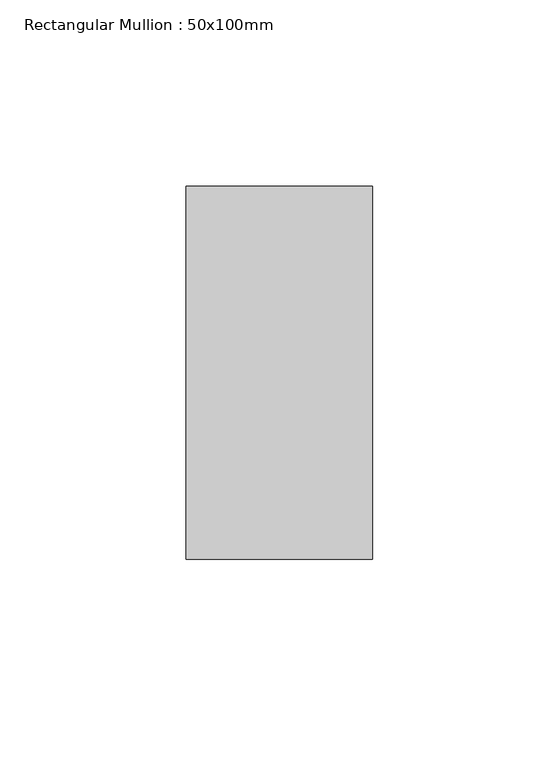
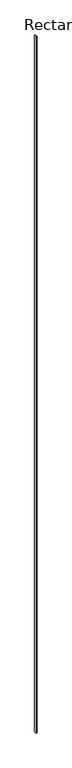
"""IFC4 building model written with IfcOpenShell, lengths in millimetres: member geometry, Rectangular Mullion : 50x100mm."""

import ifcopenshell
import ifcopenshell.guid

model = None  # the IFC model being written
_history = None  # IfcOwnerHistory: only IFC2X3 demands one
_inside = {}  # id of a spatial element -> (the spatial element, [elements in it])
_under = {}  # id of a project, library or spatial element -> (it, [spatial elements below it])
_declared = {}  # id of a project -> (the project, [libraries it declares])
_typed = {}  # id of a type object -> (the type object, [elements of that type])
_made_of = {}  # id of a material, layer set ... -> (it, [elements and type objects made of it])


def new_model(schema):
    """Start an empty IFC model of exactly this schema.

    Asked for "IFC4X3", IfcOpenShell would pick the latest addendum, in which some entities
    have other attributes; the version numbers below select the first issue.
    IFC2X3 requires an IfcOwnerHistory on every rooted entity: one is made here for all.
    """
    global model, _history
    if schema == "IFC4X3":
        model = ifcopenshell.file(schema_version=(4, 3, 0, 0))
    else:
        model = ifcopenshell.file(schema=schema)
    _inside.clear()
    _under.clear()
    _declared.clear()
    _typed.clear()
    _made_of.clear()
    _history = None
    if model.schema == "IFC2X3":
        org = make("IfcOrganization", Name="unknown")
        user = make(
            "IfcPersonAndOrganization",
            ThePerson=make("IfcPerson", FamilyName="unknown"),
            TheOrganization=org,
        )
        app = make(
            "IfcApplication",
            ApplicationDeveloper=org,
            Version="unknown",
            ApplicationFullName="unknown",
            ApplicationIdentifier="unknown",
        )
        _history = make(
            "IfcOwnerHistory",
            OwningUser=user,
            OwningApplication=app,
            ChangeAction="ADDED",
            CreationDate=0,
        )
    return model


def make(cls, **values):
    """One entity of the class cls with the attributes given. An attribute that is None is left unset."""
    return model.create_entity(
        cls, **{name: value for name, value in values.items() if value is not None}
    )


def rooted(cls, **values):
    """An entity with a GlobalId (a new one), such as an element, a storey or a relation."""
    return make(cls, GlobalId=ifcopenshell.guid.new(), OwnerHistory=_history, **values)


def si_unit(unit_type, name, prefix=None):
    """IfcSIUnit, for example si_unit("LENGTHUNIT", "METRE", prefix="MILLI")."""
    return make("IfcSIUnit", UnitType=unit_type, Prefix=prefix, Name=name)


def assignment(units):
    """IfcUnitAssignment: the units of a project."""
    return None if units is None else make("IfcUnitAssignment", Units=units)


def point(xyz):
    """IfcCartesianPoint."""
    return None if xyz is None else make("IfcCartesianPoint", Coordinates=xyz)


def direction(xyz):
    """IfcDirection."""
    return None if xyz is None else make("IfcDirection", DirectionRatios=xyz)


def frame(location, z_axis=None, x_axis=None):
    """IfcAxis2Placement3D, a coordinate frame: its origin and axes. An axis left out is left unset."""
    return make(
        "IfcAxis2Placement3D",
        Location=point(location),
        Axis=direction(z_axis),
        RefDirection=direction(x_axis),
    )


def origin():
    """The frame at (0, 0, 0) with its axes left unset."""
    return frame((0.0, 0.0, 0.0))


def place(relative_to, where):
    """IfcLocalPlacement: puts the frame where relative to a parent placement (None: the world)."""
    return make(
        "IfcLocalPlacement", PlacementRelTo=relative_to, RelativePlacement=where
    )


def context(
    kind, dimensions, precision=None, world=None, true_north=None, identifier=None
):
    """IfcGeometricRepresentationContext, for example the 3D "Model" context."""
    return make(
        "IfcGeometricRepresentationContext",
        ContextIdentifier=identifier,
        ContextType=kind,
        CoordinateSpaceDimension=dimensions,
        Precision=precision,
        WorldCoordinateSystem=world,
        TrueNorth=true_north,
    )


def project(units=None, contexts=None):
    """IfcProject with its units and contexts."""
    return rooted(
        "IfcProject",
        Name="project",
        RepresentationContexts=contexts,
        UnitsInContext=assignment(units),
    )


def spatial(cls, under=None, at=None, **own):
    """A site, building, storey or space (cls), placed at a placement, below another one or the project."""
    s = rooted(cls, ObjectPlacement=at, **own)
    if under is not None:
        _under.setdefault(under.id(), (under, []))[1].append(s)
    return s


def polyline(points):
    """IfcPolyline through the points."""
    return make("IfcPolyline", Points=[point(p) for p in points])


def outline(outer, holes=None, kind="AREA"):
    """IfcArbitraryClosedProfileDef: a profile drawn as a closed curve; with holes, ...WithVoids."""
    if holes is None:
        return make("IfcArbitraryClosedProfileDef", ProfileType=kind, OuterCurve=outer)
    return make(
        "IfcArbitraryProfileDefWithVoids",
        ProfileType=kind,
        OuterCurve=outer,
        InnerCurves=holes,
    )


def extrude(swept, where, along, depth):
    """IfcExtrudedAreaSolid: the profile swept, set in the frame where, extruded along a direction by depth."""
    return make(
        "IfcExtrudedAreaSolid",
        SweptArea=swept,
        Position=where,
        ExtrudedDirection=direction(along),
        Depth=depth,
    )


def shape(context_of_items, identifier, shape_type, items):
    """IfcShapeRepresentation: the items that make up one representation, for example the "Body"."""
    return make(
        "IfcShapeRepresentation",
        ContextOfItems=context_of_items,
        RepresentationIdentifier=identifier,
        RepresentationType=shape_type,
        Items=items,
    )


def source(mapping_origin, context_of_items, identifier, shape_type, items):
    """IfcRepresentationMap: a shape defined once, which mapped items show again and again."""
    return make(
        "IfcRepresentationMap",
        MappingOrigin=mapping_origin,
        MappedRepresentation=shape(context_of_items, identifier, shape_type, items),
    )


def transform(
    local_origin,
    x_axis=None,
    y_axis=None,
    z_axis=None,
    scale=None,
    scale2=None,
    scale3=None,
    uniform=True,
):
    """IfcCartesianTransformationOperator3D, or its non-uniform kind. x_axis, y_axis, z_axis: its Axis1, 2, 3."""
    if uniform:
        return make(
            "IfcCartesianTransformationOperator3D",
            Axis1=direction(x_axis),
            Axis2=direction(y_axis),
            LocalOrigin=point(local_origin),
            Scale=scale,
            Axis3=direction(z_axis),
        )
    return make(
        "IfcCartesianTransformationOperator3DnonUniform",
        Axis1=direction(x_axis),
        Axis2=direction(y_axis),
        LocalOrigin=point(local_origin),
        Scale=scale,
        Axis3=direction(z_axis),
        Scale2=scale2,
        Scale3=scale3,
    )


def mapped(mapping_source, mapping_target):
    """IfcMappedItem: shows the shape of a source again, moved by a transform."""
    return make(
        "IfcMappedItem", MappingSource=mapping_source, MappingTarget=mapping_target
    )


def made_of(thing, what):
    """Note that an element or type object is made of a material, layer set ...; save() writes the relation."""
    if what is not None:
        _made_of.setdefault(what.id(), (what, []))[1].append(thing)
    return thing


def element(
    cls,
    number,
    at=None,
    inside=None,
    cuts=None,
    type_object=None,
    material=None,
    context=None,
    identifier="Body",
    shape_type=None,
    held_by="IfcProductDefinitionShape",
    body=None,
    shapes=None,
    **own,
):
    """One element of the class cls, such as IfcWall. Its Tag is "e" and its number.

    at: its placement. inside: the storey or other place that contains it. cuts: it is an
    opening in that element (IfcRelVoidsElement). A single representation is given by context,
    identifier, shape_type and body (its items); several are given by shapes. held_by: the class
    of the entity that holds the representations. save() writes the other relations.
    """
    e = rooted(cls, Tag="e%d" % number, ObjectPlacement=at, **own)
    if body is not None:
        shapes = [shape(context, identifier, shape_type, body)]
    if shapes is not None:
        e.Representation = make(held_by, Representations=shapes)
    if inside is not None:
        _inside.setdefault(inside.id(), (inside, []))[1].append(e)
    if cuts is not None:
        rooted(
            "IfcRelVoidsElement", RelatingBuildingElement=cuts, RelatedOpeningElement=e
        )
    if type_object is not None:
        _typed.setdefault(type_object.id(), (type_object, []))[1].append(e)
    return made_of(e, material)


def aggregate(whole, parts):
    """IfcRelAggregates: a whole, such as a stair, and the parts it consists of."""
    return rooted("IfcRelAggregates", RelatingObject=whole, RelatedObjects=parts)


def save(model, path):
    """Write the relations noted so far, then the file.

    IfcRelAggregates (storeys below a building ...), IfcRelContainedInSpatialStructure (elements
    in a storey), IfcRelDefinesByType, IfcRelAssociatesMaterial and IfcRelDeclares: one each for
    every whole, place, type object, material and project.
    """
    for whole, parts in _under.values():
        aggregate(whole, parts)
    for where, things in _inside.values():
        rooted(
            "IfcRelContainedInSpatialStructure",
            RelatedElements=things,
            RelatingStructure=where,
        )
    for kind, things in _typed.values():
        rooted("IfcRelDefinesByType", RelatedObjects=things, RelatingType=kind)
    for what, things in _made_of.values():
        rooted("IfcRelAssociatesMaterial", RelatedObjects=things, RelatingMaterial=what)
    for by, libraries in _declared.values():
        rooted("IfcRelDeclares", RelatingContext=by, RelatedDefinitions=libraries)
    model.write(path)


def rectangular_mullion_50x100mm_e21e6a0d(model_context):
    return source(origin(), model_context, "Body", "SweptSolid", [
        extrude(outline(polyline([(25.0, 50.0), (25.0, -50.0), (-25.0, -50.0), (-25.0, 50.0), (25.0, 50.0)])), frame((0.0, 0.0, -34211.5069282), z_axis=(0.0, 0.0, 1.0), x_axis=(1.0, 0.0, 0.0)), (0.0, 0.0, 1.0), 34211.5069282),
    ])


if __name__ == "__main__":
    model = new_model("IFC4")
    model_context = context("Model", 3, world=origin())
    ifc_project = project(units=[si_unit("LENGTHUNIT", "METRE", prefix="MILLI")], contexts=[model_context])
    site = spatial("IfcSite", under=ifc_project)
    building = spatial("IfcBuilding", under=site)
    placement = place(None, origin())
    rectangular_mullion_50x100mm_shape = rectangular_mullion_50x100mm_e21e6a0d(model_context)
    element("IfcMember", 1, ObjectType="Rectangular Mullion : 50x100mm", at=placement, inside=building, context=model_context, shape_type="MappedRepresentation", body=[
        mapped(rectangular_mullion_50x100mm_shape, transform((0.0, 0.0, 0.0), x_axis=(1.0, 0.0, 0.0), y_axis=(0.0, 1.0, 0.0), z_axis=(0.0, 0.0, 1.0))),
    ])
    save(model, "model.ifc")
